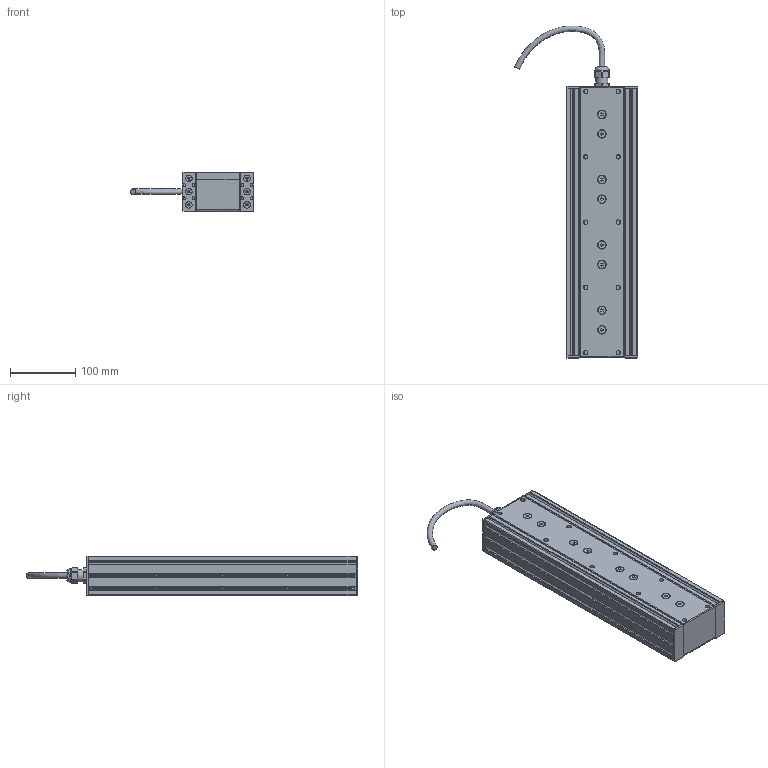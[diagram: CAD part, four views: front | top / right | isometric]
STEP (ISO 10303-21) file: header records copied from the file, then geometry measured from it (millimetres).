
FILE_DESCRIPTION(/* description */ (''),/* implementation_level */ '2;1');
FILE_NAME(/* name */ 'ELFQ-FA-PR004-T.step',/* time_stamp */ '2024-05-23T14:40:13+09:00',/* author */ (''),/* organization */ (''),/* preprocessor_version */ 'ST-DEVELOPER v20',/* originating_system */ 'Autodesk Translation Framework v13.14.0.145',/* authorisation */ '');
FILE_SCHEMA (('AUTOMOTIVE_DESIGN { 1 0 10303 214 3 1 1 }'));
Products named in the file (51): 19103-1B(ELFQ-FA-PR004-T); 18995-3-01; LBNR5; LBNR5_1; LBNR5_2; LBNR5_3; LBNR5_4; LBNR5_5; LBNR5_6; LBNR5_7; LBNR5_8; LBNR5_9; LBNR5_10; BOX-SFB5-15; LBNR5 v1(ミラー); LBNR5(ミラー); BOX-SFB5-15 v2(ミラー); SKINTOP ST PG 11      Art. Nr. 53015020(F=4); SKINTOP ST PG 11      Art. Nr. 53015020(F=4)_1; SKINTOP GMP-GL PG 11      Art. Nr. 53019020; SKINTOP GMP-GL PG 11      Art. Nr. 53019020_1; UL2464-OHFR-PCVV-19AWGx4C; 18995-3-02; SFB6-15; 18995-3-03; 18995-3-03_1; 18995-3-03_2; 18995-3-03_3; HFS5-2060-410; HFC5-2060-S; HFC5-2060-S_1; SSH-M5-10; HFC5-2060-S v1(ミラー); HFC5-2060-S(ミラー); SSH-M5-10_1; SSH-M5-10_2; SSH-M5-10_3; SSH-M5-10_4; SSH-M5-10_5; SSH-M5-10_6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
Assembly tree (100 placements, depth 4):
  19103-1B(ELFQ-FA-PR004-T)
    18995-3-01
      LBNR5
        LBNR5_10
      LBNR5_1
        LBNR5_10
      LBNR5_2
        LBNR5_10
      LBNR5_3
        LBNR5_10
      LBNR5_4
        LBNR5_10
      LBNR5_5
        LBNR5_10
      LBNR5_6
        LBNR5_10
      LBNR5_7
        LBNR5_10
      LBNR5_8
        LBNR5_10
      LBNR5_9
        LBNR5_10
      BOX-SFB5-15  x6
      LBNR5 v1(ミラー)  x8
        LBNR5(ミラー)
      BOX-SFB5-15 v2(ミラー)  x5
      SKINTOP ST PG 11      Art. Nr. 53015020(F=4)
        SKINTOP ST PG 11      Art. Nr. 53015020(F=4)_1
      SKINTOP GMP-GL PG 11      Art. Nr. 53019020
        SKINTOP GMP-GL PG 11      Art. Nr. 53019020_1
      UL2464-OHFR-PCVV-19AWGx4C
    18995-3-02
      SFB6-15  x8
      18995-3-03
      18995-3-03_1
      18995-3-03_2
      18995-3-03_3
    HFS5-2060-410
      HFC5-2060-S
        HFC5-2060-S_1
      SSH-M5-10
        SSH-M5-10_10
      HFC5-2060-S v1(ミラー)
        HFC5-2060-S(ミラー)
      SSH-M5-10_1
        SSH-M5-10_10
      SSH-M5-10_2
        SSH-M5-10_10
      SSH-M5-10_3
        SSH-M5-10_10
      SSH-M5-10_4
        SSH-M5-10_10
      SSH-M5-10_5
        SSH-M5-10_10
      SSH-M5-10_6
        SSH-M5-10_10
      SSH-M5-10_7
        SSH-M5-10_10
      SSH-M5-10_8
        SSH-M5-10_10
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Bounding box: 188.37 x 508.32 x 61 mm (x, y, z)
Volume: 1101366.6 mm3; surface area: 692147 mm2
Topology: 28 solids, 1217 shells, 2397 faces, 8536 edges, 7190 vertices
Faces by surface type: plane 1409, cylinder 659, cone 322, torus 5, bspline 2
Full cylindrical faces by diameter (mm): 1.5 x12, 4 x1, 4.134 x18, 4.2 x26, 4.234 x12, 5 x51, 5.035 x16, 6 x24, 6.779 x10, 7 x8, 8.5 x1, 9 x20, 10 x23, 12 x8, 17.4 x1, 17.67 x2, 18.6 x2, 19 x1, 22 x1, 26 x1
Entity records: 65632 total; most frequent: CARTESIAN_POINT 16960, DIRECTION 9882, ORIENTED_EDGE 7977, EDGE_CURVE 5287, VERTEX_POINT 4346, AXIS2_PLACEMENT_3D 3365, LINE 3152, VECTOR 3152
